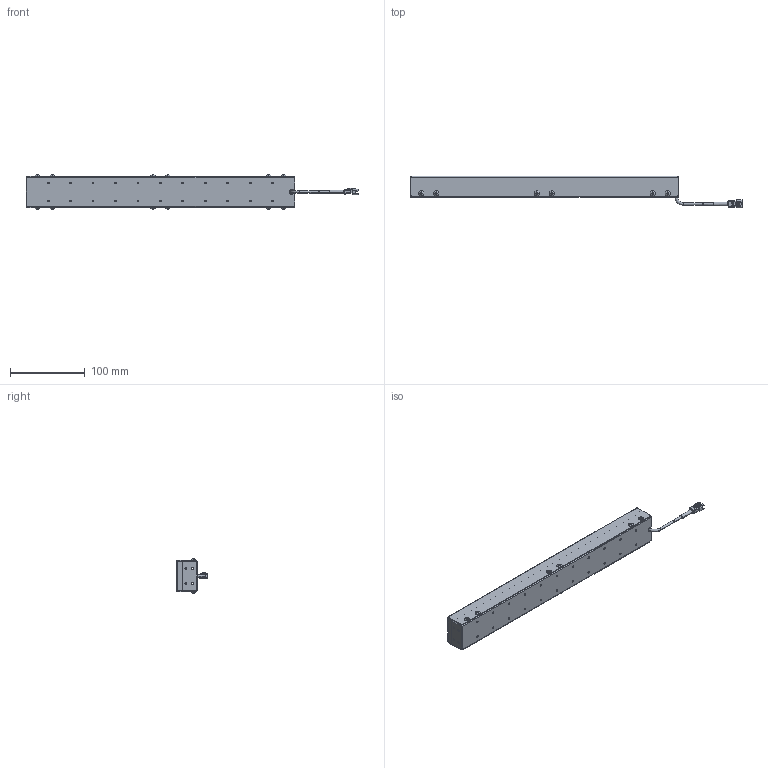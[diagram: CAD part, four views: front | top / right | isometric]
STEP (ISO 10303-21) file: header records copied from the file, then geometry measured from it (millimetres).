
FILE_DESCRIPTION (( 'STEP AP203' ), '1' );
FILE_NAME ('UA37756.STEP', '2021-08-23T10:29:06', ( 'CCS' ), ( 'シーシーエス株式会社' ), 'SwSTEP 2.0', 'SolidWorks 2017', '' );
FILE_SCHEMA (( 'CONFIG_CONTROL_DESIGN' ));
Length unit declared in the file: millimetre
Products named in the file (1): UA37756
Bounding box: 443.25 x 42.25 x 45.6 mm (x, y, z)
Surface area: 95920.6 mm2 (no closed solid volume)
Topology: 0 solids, 105 shells, 810 faces, 2731 edges, 1979 vertices
Faces by surface type: plane 496, cylinder 171, torus 42, bspline 40, cone 37, sphere 24
Entity records: 31525 total; most frequent: CARTESIAN_POINT 8031, DIRECTION 4980, ORIENTED_EDGE 4138, EDGE_CURVE 2723, VERTEX_POINT 1979, AXIS2_PLACEMENT_3D 1693, VECTOR 1594, LINE 1594
